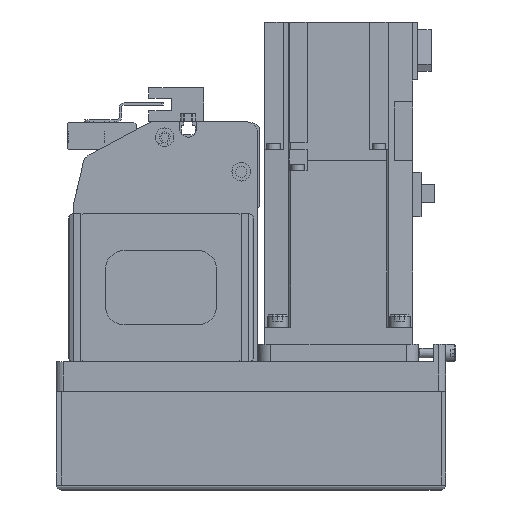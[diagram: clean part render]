
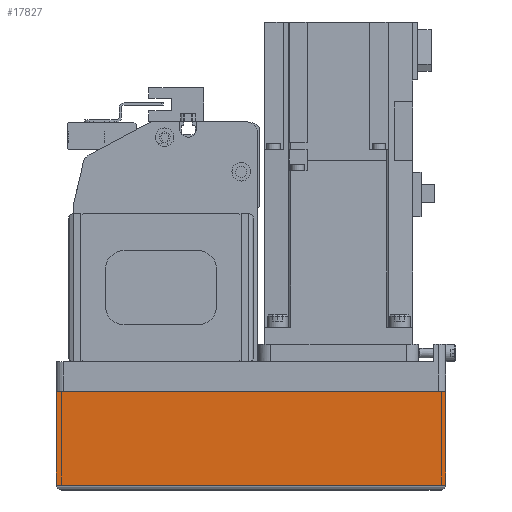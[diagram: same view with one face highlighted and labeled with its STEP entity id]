
A CAD part, left-side view. The second image highlights one B-rep face of the part: STEP entity #17827.
In plain terms, the highlighted planar face has unit normal (-1, 0, 0) as drawn and (0, 1, 0) by its records, which use the part's own axes.
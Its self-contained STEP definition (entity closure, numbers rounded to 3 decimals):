
#2790=ORIENTED_EDGE('',*,*,#7145,.F.);
#2791=ORIENTED_EDGE('',*,*,#7214,.F.);
#2792=ORIENTED_EDGE('',*,*,#7162,.T.);
#2793=ORIENTED_EDGE('',*,*,#7137,.T.);
#7137=EDGE_CURVE('',#9501,#9500,#11318,.T.);
#7145=EDGE_CURVE('',#9508,#9500,#11326,.T.);
#7162=EDGE_CURVE('',#9518,#9501,#11339,.T.);
#7214=EDGE_CURVE('',#9518,#9508,#11368,.T.);
#9500=VERTEX_POINT('',#27368);
#9501=VERTEX_POINT('',#27370);
#9508=VERTEX_POINT('',#27387);
#9518=VERTEX_POINT('',#27418);
#11318=LINE('',#27369,#12931);
#11326=LINE('',#27386,#12939);
#11339=LINE('',#27417,#12952);
#11368=LINE('',#27512,#12981);
#12931=VECTOR('',#21912,1000.);
#12939=VECTOR('',#21924,1000.);
#12952=VECTOR('',#21953,1000.);
#12981=VECTOR('',#22070,1000.);
#14421=EDGE_LOOP('',(#2790,#2791,#2792,#2793));
#15836=FACE_BOUND('',#14421,.T.);
#17080=PLANE('',#19132);
#17827=ADVANCED_FACE('',(#15836),#17080,.T.);
#19132=AXIS2_PLACEMENT_3D('',#27511,#22068,#22069);
#21912=DIRECTION('',(1.,0.,0.));
#21924=DIRECTION('',(0.,0.,1.));
#21953=DIRECTION('',(0.,0.,1.));
#22068=DIRECTION('',(0.,1.,0.));
#22069=DIRECTION('',(0.,0.,1.));
#22070=DIRECTION('',(1.,0.,0.));
#27368=CARTESIAN_POINT('',(0.,39.,-12.1));
#27369=CARTESIAN_POINT('',(-158.,39.,-12.1));
#27370=CARTESIAN_POINT('',(-158.,39.,-12.1));
#27386=CARTESIAN_POINT('',(0.,39.,-50.));
#27387=CARTESIAN_POINT('',(0.,39.,-50.));
#27417=CARTESIAN_POINT('',(-158.,39.,-50.));
#27418=CARTESIAN_POINT('',(-158.,39.,-50.));
#27511=CARTESIAN_POINT('',(-158.,39.,-50.));
#27512=CARTESIAN_POINT('',(-158.,39.,-50.));
